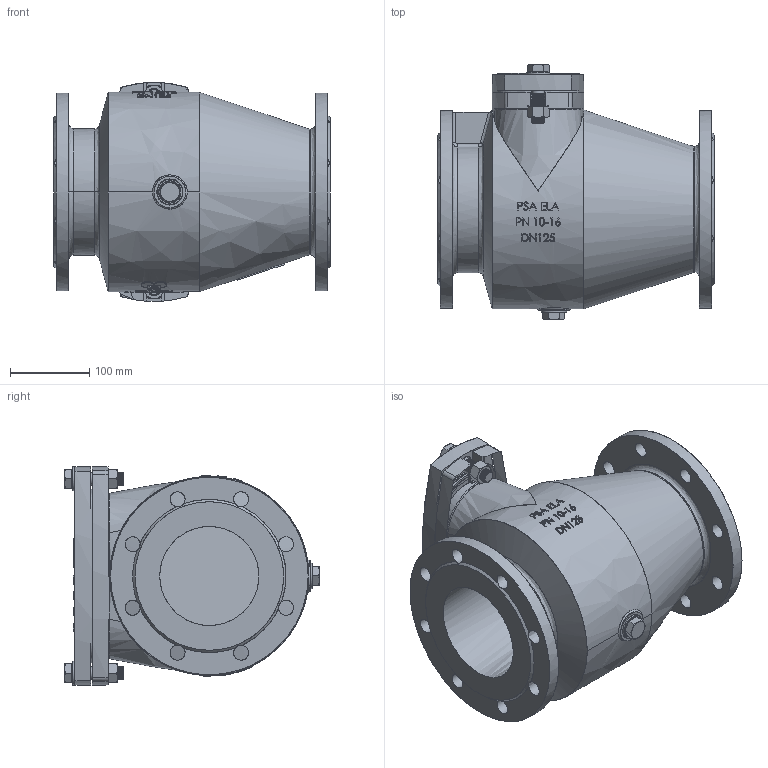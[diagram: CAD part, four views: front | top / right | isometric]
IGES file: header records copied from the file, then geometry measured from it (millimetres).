
Start section: P
Global section: file name: PSA ELA DN125 PN16.igs; native system: By Siemens PLM Incorporated; preprocessor: XPlus GENERIC/IGES 25.1.153; author: Christin-Michelle Fremgen; organization: PSA Wasserarmaturen GmbH; date: 20241016.115946; units: millimetre
Bounding box: 350 x 322.19 x 276.96 mm (x, y, z)
Surface area: 876929.7 mm2 (no closed solid volume)
Topology: 0 solids, 0 shells, 1647 faces, 9253 edges, 9240 vertices
Faces by surface type: bspline 1647
